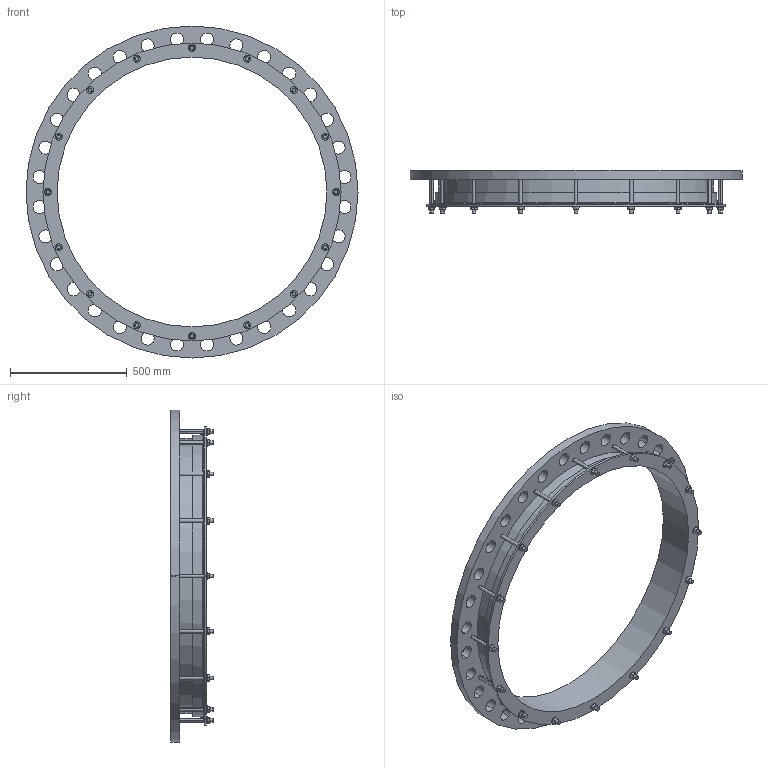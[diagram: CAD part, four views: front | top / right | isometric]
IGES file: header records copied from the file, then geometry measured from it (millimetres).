
Start section:  PTC IGES file: 1152x1100pn25.igs
Global section: file name: 1152x1100pn25.igs; native system: Creo Parametric by PTC Inc.; preprocessor: 2016130; author: mfairey; organization: Unknown; date: 20190404.153252; units: millimetre
Bounding box: 1420 x 182 x 1420 mm (x, y, z)
Surface area: 2746254.7 mm2 (no closed solid volume)
Topology: 0 solids, 0 shells, 322 faces, 1708 edges, 1708 vertices
Faces by surface type: revolution 174, bspline 148
